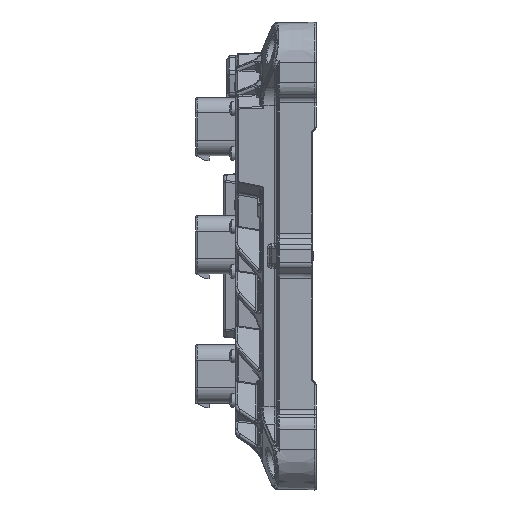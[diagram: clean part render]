
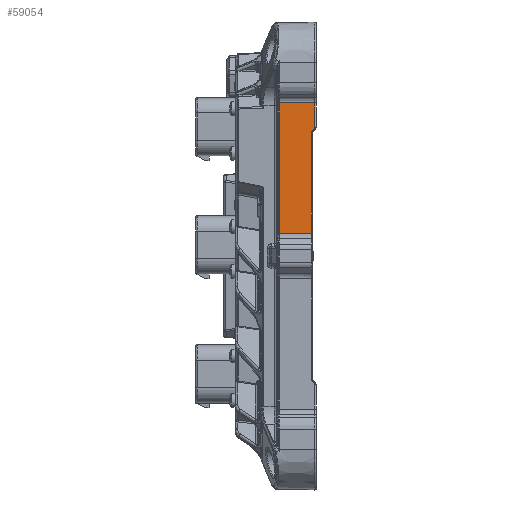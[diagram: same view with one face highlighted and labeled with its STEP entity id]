
A CAD part, left-side view. The second image highlights one B-rep face of the part: STEP entity #59054.
In plain terms, the highlighted planar face has unit normal (-1, 0.018, 0).
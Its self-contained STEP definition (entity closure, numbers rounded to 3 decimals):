
#857 = CARTESIAN_POINT ( 'NONE',  ( -115.991, 0.509, 52.363 ) ) ;
#1071 = CARTESIAN_POINT ( 'NONE',  ( -115.989, 0.642, 51.712 ) ) ;
#8390 = DIRECTION ( 'NONE',  ( 0., 0., -1. ) ) ;
#10570 = VERTEX_POINT ( 'NONE', #108738 ) ;
#11906 = EDGE_CURVE ( 'NONE', #97104, #17475, #35699, .T. ) ;
#12768 = VERTEX_POINT ( 'NONE', #97295 ) ;
#15425 = CARTESIAN_POINT ( 'NONE',  ( -115.737, 15.043, 9.194 ) ) ;
#15610 = DIRECTION ( 'NONE',  ( 0., 0., -1. ) ) ;
#17077 = LINE ( 'NONE', #96364, #120316 ) ;
#17424 = ORIENTED_EDGE ( 'NONE', *, *, #95371, .T. ) ;
#17475 = VERTEX_POINT ( 'NONE', #51941 ) ;
#21111 = ORIENTED_EDGE ( 'NONE', *, *, #98080, .F. ) ;
#24895 = LINE ( 'NONE', #78016, #74943 ) ;
#26915 = DIRECTION ( 'NONE',  ( 0.017, 1., 0. ) ) ;
#28385 = CARTESIAN_POINT ( 'NONE',  ( -115.965, 2.009, 49.414 ) ) ;
#29957 = VECTOR ( 'NONE', #15610, 1000. ) ;
#30100 = ORIENTED_EDGE ( 'NONE', *, *, #39906, .F. ) ;
#31690 = B_SPLINE_CURVE_WITH_KNOTS ( 'NONE', 3,
 ( #120934, #50925, #1071, #71108 ),
 .UNSPECIFIED., .F., .F.,
 ( 4, 4 ),
 ( 0., 1. ),
 .UNSPECIFIED. ) ;
#33107 = LINE ( 'NONE', #35725, #29957 ) ;
#35699 = LINE ( 'NONE', #47736, #115471 ) ;
#35725 = CARTESIAN_POINT ( 'NONE',  ( -115.965, 2.009, 50.139 ) ) ;
#38050 = VECTOR ( 'NONE', #115519, 1000. ) ;
#38409 = CARTESIAN_POINT ( 'NONE',  ( -115.966, 1.952, 49.999 ) ) ;
#38906 = EDGE_CURVE ( 'NONE', #12768, #42036, #33107, .T. ) ;
#39906 = EDGE_CURVE ( 'NONE', #89209, #47975, #125171, .T. ) ;
#42036 = VERTEX_POINT ( 'NONE', #98173 ) ;
#47736 = CARTESIAN_POINT ( 'NONE',  ( -115.737, 15.043, -94. ) ) ;
#47975 = VERTEX_POINT ( 'NONE', #857 ) ;
#48395 = CARTESIAN_POINT ( 'NONE',  ( -115.973, 1.561, 50.794 ) ) ;
#48880 = CARTESIAN_POINT ( 'NONE',  ( -115.991, 0.509, -94. ) ) ;
#49542 = PLANE ( 'NONE',  #126085 ) ;
#50925 = CARTESIAN_POINT ( 'NONE',  ( -115.991, 0.509, 52.034 ) ) ;
#51941 = CARTESIAN_POINT ( 'NONE',  ( -115.737, 15.043, 9.194 ) ) ;
#59054 = ADVANCED_FACE ( 'NONE', ( #67292 ), #49542, .T. ) ;
#59631 = CARTESIAN_POINT ( 'NONE',  ( -116., 0., -94. ) ) ;
#64456 = ORIENTED_EDGE ( 'NONE', *, *, #124707, .T. ) ;
#67292 = FACE_OUTER_BOUND ( 'NONE', #72679, .T. ) ;
#67328 = CARTESIAN_POINT ( 'NONE',  ( -115.991, 0.509, 62.186 ) ) ;
#67957 = DIRECTION ( 'NONE',  ( 0.012, 0.707, -0.707 ) ) ;
#69714 = DIRECTION ( 'NONE',  ( -0.017, -1., 0. ) ) ;
#70053 = VERTEX_POINT ( 'NONE', #72613 ) ;
#71108 = CARTESIAN_POINT ( 'NONE',  ( -115.985, 0.875, 51.48 ) ) ;
#72613 = CARTESIAN_POINT ( 'NONE',  ( -115.976, 1.35, 51.005 ) ) ;
#72679 = EDGE_LOOP ( 'NONE', ( #64456, #109684, #17424, #121513, #78448, #21111, #99659, #30100 ) ) ;
#74943 = VECTOR ( 'NONE', #67957, 1000. ) ;
#78016 = CARTESIAN_POINT ( 'NONE',  ( -116.047, -2.694, 55.049 ) ) ;
#78448 = ORIENTED_EDGE ( 'NONE', *, *, #95912, .T. ) ;
#89209 = VERTEX_POINT ( 'NONE', #67328 ) ;
#95371 = EDGE_CURVE ( 'NONE', #17475, #42036, #114695, .T. ) ;
#95912 = EDGE_CURVE ( 'NONE', #12768, #70053, #123493, .T. ) ;
#96364 = CARTESIAN_POINT ( 'NONE',  ( -116., 0., 62.186 ) ) ;
#97104 = VERTEX_POINT ( 'NONE', #108019 ) ;
#97295 = CARTESIAN_POINT ( 'NONE',  ( -115.965, 2.009, 49.414 ) ) ;
#98080 = EDGE_CURVE ( 'NONE', #10570, #70053, #24895, .T. ) ;
#98173 = CARTESIAN_POINT ( 'NONE',  ( -115.965, 2.009, 9.288 ) ) ;
#98580 = VECTOR ( 'NONE', #108834, 1000. ) ;
#99659 = ORIENTED_EDGE ( 'NONE', *, *, #125716, .F. ) ;
#108019 = CARTESIAN_POINT ( 'NONE',  ( -115.737, 15.043, 62.186 ) ) ;
#108319 = CARTESIAN_POINT ( 'NONE',  ( -115.97, 1.723, 50.55 ) ) ;
#108738 = CARTESIAN_POINT ( 'NONE',  ( -115.985, 0.875, 51.48 ) ) ;
#108834 = DIRECTION ( 'NONE',  ( 0., 0., -1. ) ) ;
#109684 = ORIENTED_EDGE ( 'NONE', *, *, #11906, .T. ) ;
#114695 = LINE ( 'NONE', #15425, #38050 ) ;
#115471 = VECTOR ( 'NONE', #8390, 1000. ) ;
#115519 = DIRECTION ( 'NONE',  ( -0.017, -1., 0.007 ) ) ;
#118409 = CARTESIAN_POINT ( 'NONE',  ( -115.976, 1.35, 51.005 ) ) ;
#120316 = VECTOR ( 'NONE', #26915, 1000. ) ;
#120934 = CARTESIAN_POINT ( 'NONE',  ( -115.991, 0.509, 52.363 ) ) ;
#121513 = ORIENTED_EDGE ( 'NONE', *, *, #38906, .F. ) ;
#123493 = B_SPLINE_CURVE_WITH_KNOTS ( 'NONE', 3,
 ( #28385, #126708, #38409, #108319, #48395, #118409 ),
 .UNSPECIFIED., .F., .F.,
 ( 4, 2, 4 ),
 ( 0., 0.5, 1. ),
 .UNSPECIFIED. ) ;
#124707 = EDGE_CURVE ( 'NONE', #89209, #97104, #17077, .T. ) ;
#125171 = LINE ( 'NONE', #48880, #98580 ) ;
#125716 = EDGE_CURVE ( 'NONE', #47975, #10570, #31690, .T. ) ;
#126085 = AXIS2_PLACEMENT_3D ( 'NONE', #59631, #129634, #69714 ) ;
#126708 = CARTESIAN_POINT ( 'NONE',  ( -115.965, 2.009, 49.712 ) ) ;
#129634 = DIRECTION ( 'NONE',  ( -1., 0.017, 0. ) ) ;
